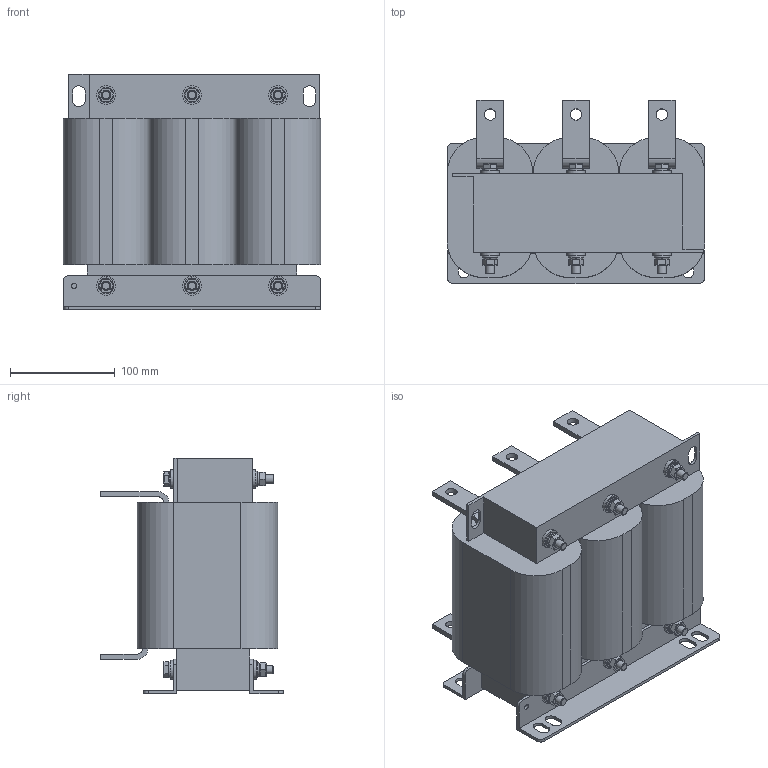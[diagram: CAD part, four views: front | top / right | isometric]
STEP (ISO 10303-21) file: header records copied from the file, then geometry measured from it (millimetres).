
FILE_DESCRIPTION(('STEP AP203'), '1');
FILE_NAME('栖闉罻 _ ISF-160_305-4', '', ('UNSPECIFIED'), ('UNSPECIFIED'), 'ASCON STEP Converter 1.6', 'ASCON Math Kernel', '');
FILE_SCHEMA(('CONFIG_CONTROL_DESIGN'));
Length unit declared in the file: millimetre
Products named in the file (12): ISF-160_305-4
Assembly tree (55 placements, depth 2):
  ISF-160_305-4
    ISF-160_305-4
    ISF-160_305-4  x2
    ISF-160_305-4  x3
    ISF-160_305-4
    ISF-160_305-4  x3
    ISF-160_305-4  x3
    ISF-160_305-4  x12
    ISF-160_305-4  x12
    ISF-160_305-4  x6
    ISF-160_305-4  x6
    ISF-160_305-4  x6
Bounding box: 246 x 174.5 x 225 mm (x, y, z)
Volume: 5519079 mm3; surface area: 451415.3 mm2
Topology: 55 solids, 55 shells, 586 faces, 1248 edges, 778 vertices
Faces by surface type: plane 424, cylinder 132, cone 18, torus 12
Full cylindrical faces by diameter (mm): 5 x2, 8 x48, 11 x6, 15 x12, 18 x12
Entity records: 6320 total; most frequent: CARTESIAN_POINT 1072, DIRECTION 832, ORIENTED_EDGE 666, EDGE_CURVE 333, AXIS2_PLACEMENT_3D 297, LINE 238, VECTOR 238, VERTEX_POINT 227
